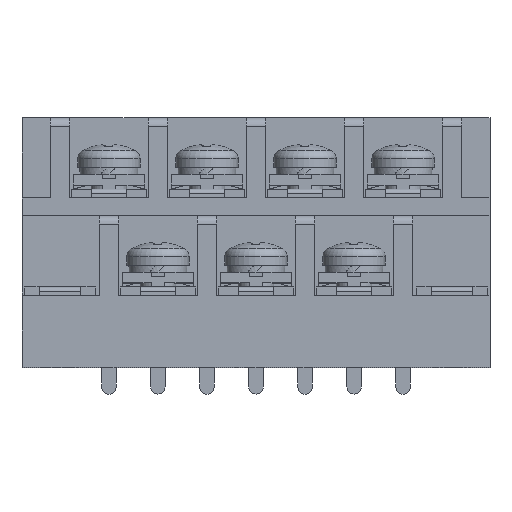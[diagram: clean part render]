
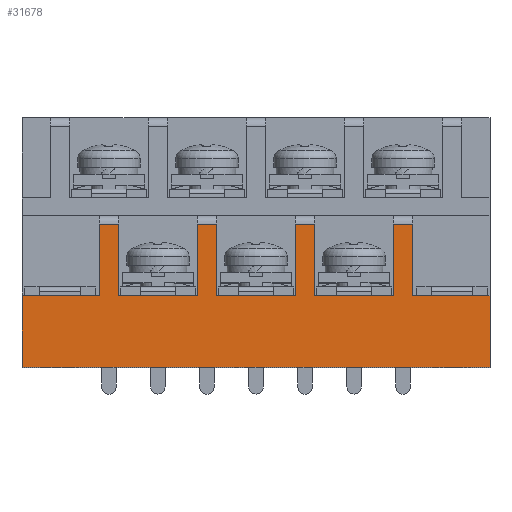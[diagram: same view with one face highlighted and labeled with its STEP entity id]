
A CAD part, top view. The second image highlights one B-rep face of the part: STEP entity #31678.
In plain terms, the highlighted planar face has unit normal (0, 0, 1).
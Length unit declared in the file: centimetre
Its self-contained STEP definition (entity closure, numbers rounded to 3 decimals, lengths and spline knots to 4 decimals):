
#1436=VECTOR('',#33374,1.);
#1439=VECTOR('',#33380,1.);
#1482=VECTOR('',#33462,1.);
#1508=VECTOR('',#33490,1.);
#1559=VECTOR('',#33581,1.);
#1612=VECTOR('',#33677,1.);
#1614=VECTOR('',#33680,1.);
#1970=VECTOR('',#34158,1.);
#2141=VECTOR('',#34530,1.);
#2143=VECTOR('',#34536,1.);
#2145=VECTOR('',#34539,1.);
#2156=VECTOR('',#34559,1.);
#2318=VECTOR('',#34908,1.);
#2320=VECTOR('',#34914,1.);
#2326=VECTOR('',#34926,1.);
#2669=VECTOR('',#35642,1.);
#2815=VECTOR('',#35980,1.);
#2816=VECTOR('',#35982,1.);
#2817=VECTOR('',#35983,1.);
#2818=VECTOR('',#35984,1.);
#4973=LINE('',#39330,#1436);
#4976=LINE('',#39338,#1439);
#5019=LINE('',#39445,#1482);
#5045=LINE('',#39498,#1508);
#5096=LINE('',#39621,#1559);
#5149=LINE('',#39748,#1612);
#5151=LINE('',#39753,#1614);
#5507=LINE('',#41120,#1970);
#5678=LINE('',#41626,#2141);
#5680=LINE('',#41632,#2143);
#5682=LINE('',#41637,#2145);
#5693=LINE('',#41661,#2156);
#5855=LINE('',#42141,#2318);
#5857=LINE('',#42147,#2320);
#5863=LINE('',#42160,#2326);
#6206=LINE('',#43153,#2669);
#6352=LINE('',#43603,#2815);
#6353=LINE('',#43605,#2816);
#6354=LINE('',#43606,#2817);
#6355=LINE('',#43607,#2818);
#8866=PLANE('',#51914);
#10037=VERTEX_POINT('',#39329);
#10038=VERTEX_POINT('',#39331);
#10040=VERTEX_POINT('',#39337);
#10077=VERTEX_POINT('',#39444);
#10078=VERTEX_POINT('',#39446);
#10103=VERTEX_POINT('',#39499);
#10143=VERTEX_POINT('',#39616);
#10145=VERTEX_POINT('',#39620);
#10188=VERTEX_POINT('',#39747);
#10189=VERTEX_POINT('',#39751);
#10495=VERTEX_POINT('',#41119);
#10650=VERTEX_POINT('',#41619);
#10653=VERTEX_POINT('',#41625);
#10655=VERTEX_POINT('',#41631);
#10656=VERTEX_POINT('',#41635);
#10812=VERTEX_POINT('',#42134);
#10815=VERTEX_POINT('',#42140);
#10817=VERTEX_POINT('',#42146);
#11135=VERTEX_POINT('',#43152);
#11269=VERTEX_POINT('',#43600);
#13338=EDGE_CURVE('',#10037,#10038,#4973,.T.);
#13342=EDGE_CURVE('',#10037,#10040,#4976,.T.);
#13394=EDGE_CURVE('',#10077,#10078,#5019,.T.);
#13420=EDGE_CURVE('',#10078,#10103,#5045,.T.);
#13483=EDGE_CURVE('',#10145,#10143,#5096,.T.);
#13549=EDGE_CURVE('',#10188,#10040,#5149,.T.);
#13551=EDGE_CURVE('',#10189,#10188,#5151,.T.);
#14008=EDGE_CURVE('',#10077,#10495,#5507,.T.);
#14251=EDGE_CURVE('',#10650,#10653,#5678,.T.);
#14254=EDGE_CURVE('',#10655,#10653,#5680,.T.);
#14256=EDGE_CURVE('',#10656,#10655,#5682,.T.);
#14269=EDGE_CURVE('',#10650,#10189,#5693,.T.);
#14497=EDGE_CURVE('',#10812,#10815,#5855,.T.);
#14500=EDGE_CURVE('',#10817,#10815,#5857,.T.);
#14507=EDGE_CURVE('',#10812,#10656,#5863,.T.);
#14982=EDGE_CURVE('',#10495,#11135,#6206,.T.);
#15195=EDGE_CURVE('',#10103,#11269,#6352,.T.);
#15196=EDGE_CURVE('',#11135,#10038,#6353,.T.);
#15197=EDGE_CURVE('',#10143,#10817,#6354,.T.);
#15198=EDGE_CURVE('',#10145,#11269,#6355,.T.);
#22088=ORIENTED_EDGE('',*,*,#14982,.T.);
#22089=ORIENTED_EDGE('',*,*,#15196,.T.);
#22090=ORIENTED_EDGE('',*,*,#13338,.F.);
#22091=ORIENTED_EDGE('',*,*,#13342,.T.);
#22092=ORIENTED_EDGE('',*,*,#13549,.F.);
#22093=ORIENTED_EDGE('',*,*,#13551,.F.);
#22094=ORIENTED_EDGE('',*,*,#14269,.F.);
#22095=ORIENTED_EDGE('',*,*,#14251,.T.);
#22096=ORIENTED_EDGE('',*,*,#14254,.F.);
#22097=ORIENTED_EDGE('',*,*,#14256,.F.);
#22098=ORIENTED_EDGE('',*,*,#14507,.F.);
#22099=ORIENTED_EDGE('',*,*,#14497,.T.);
#22100=ORIENTED_EDGE('',*,*,#14500,.F.);
#22101=ORIENTED_EDGE('',*,*,#15197,.F.);
#22102=ORIENTED_EDGE('',*,*,#13483,.F.);
#22103=ORIENTED_EDGE('',*,*,#15198,.T.);
#22104=ORIENTED_EDGE('',*,*,#15195,.F.);
#22105=ORIENTED_EDGE('',*,*,#13420,.F.);
#22106=ORIENTED_EDGE('',*,*,#13394,.F.);
#22107=ORIENTED_EDGE('',*,*,#14008,.T.);
#27905=EDGE_LOOP('',(#22088,#22089,#22090,#22091,#22092,#22093,#22094,#22095,
#22096,#22097,#22098,#22099,#22100,#22101,#22102,#22103,#22104,#22105,#22106,
#22107));
#29845=FACE_BOUND('',#27905,.T.);
#31678=ADVANCED_FACE('',(#29845),#8866,.T.);
#33374=DIRECTION('',(1.,0.,0.));
#33380=DIRECTION('',(0.,1.,0.));
#33462=DIRECTION('',(1.,0.,0.));
#33490=DIRECTION('',(0.,1.,0.));
#33581=DIRECTION('',(1.,0.,0.));
#33677=DIRECTION('',(1.,0.,0.));
#33680=DIRECTION('',(0.,1.,0.));
#34158=DIRECTION('',(0.,-1.,0.));
#34530=DIRECTION('',(0.,1.,0.));
#34536=DIRECTION('',(1.,0.,0.));
#34539=DIRECTION('',(0.,1.,0.));
#34559=DIRECTION('',(1.,0.,0.));
#34908=DIRECTION('',(0.,1.,0.));
#34914=DIRECTION('',(1.,0.,0.));
#34926=DIRECTION('',(1.,0.,0.));
#35642=DIRECTION('',(1.,0.,0.));
#35980=DIRECTION('',(1.,0.,0.));
#35981=DIRECTION('',(0.,0.,1.));
#35982=DIRECTION('',(0.,1.,0.));
#35983=DIRECTION('',(0.,1.,0.));
#35984=DIRECTION('',(0.,1.,0.));
#39329=CARTESIAN_POINT('',(1.21,-1.245,1.75));
#39330=CARTESIAN_POINT('',(1.21,-1.245,1.75));
#39331=CARTESIAN_POINT('',(2.075,-1.245,1.75));
#39337=CARTESIAN_POINT('',(1.21,-0.445,1.75));
#39338=CARTESIAN_POINT('',(1.21,-2.045,1.75));
#39444=CARTESIAN_POINT('',(-3.175,-1.245,1.75));
#39445=CARTESIAN_POINT('',(-3.175,-1.245,1.75));
#39446=CARTESIAN_POINT('',(-2.31,-1.245,1.75));
#39498=CARTESIAN_POINT('',(-2.31,-2.045,1.75));
#39499=CARTESIAN_POINT('',(-2.31,-0.445,1.75));
#39616=CARTESIAN_POINT('',(-1.21,-1.245,1.75));
#39620=CARTESIAN_POINT('',(-2.09,-1.245,1.75));
#39621=CARTESIAN_POINT('',(-2.09,-1.245,1.75));
#39747=CARTESIAN_POINT('',(0.99,-0.445,1.75));
#39748=CARTESIAN_POINT('',(0.99,-0.445,1.75));
#39751=CARTESIAN_POINT('',(0.99,-1.245,1.75));
#39753=CARTESIAN_POINT('',(0.99,-2.045,1.75));
#41119=CARTESIAN_POINT('',(-3.175,-2.045,1.75));
#41120=CARTESIAN_POINT('',(-3.175,-1.245,1.75));
#41619=CARTESIAN_POINT('',(0.11,-1.245,1.75));
#41625=CARTESIAN_POINT('',(0.11,-0.445,1.75));
#41626=CARTESIAN_POINT('',(0.11,-2.045,1.75));
#41631=CARTESIAN_POINT('',(-0.11,-0.445,1.75));
#41632=CARTESIAN_POINT('',(-0.11,-0.445,1.75));
#41635=CARTESIAN_POINT('',(-0.11,-1.245,1.75));
#41637=CARTESIAN_POINT('',(-0.11,-2.045,1.75));
#41661=CARTESIAN_POINT('',(0.11,-1.245,1.75));
#42134=CARTESIAN_POINT('',(-0.99,-1.245,1.75));
#42140=CARTESIAN_POINT('',(-0.99,-0.445,1.75));
#42141=CARTESIAN_POINT('',(-0.99,-2.045,1.75));
#42146=CARTESIAN_POINT('',(-1.21,-0.445,1.75));
#42147=CARTESIAN_POINT('',(-1.21,-0.445,1.75));
#42160=CARTESIAN_POINT('',(-0.99,-1.245,1.75));
#43152=CARTESIAN_POINT('',(2.075,-2.045,1.75));
#43153=CARTESIAN_POINT('',(-2.31,-2.045,1.75));
#43600=CARTESIAN_POINT('',(-2.09,-0.445,1.75));
#43603=CARTESIAN_POINT('',(-2.31,-0.445,1.75));
#43604=CARTESIAN_POINT('',(-2.31,-1.245,1.75));
#43605=CARTESIAN_POINT('',(2.075,-1.245,1.75));
#43606=CARTESIAN_POINT('',(-1.21,-2.045,1.75));
#43607=CARTESIAN_POINT('',(-2.09,-2.045,1.75));
#51914=AXIS2_PLACEMENT_3D('',#43604,#35981,$);
